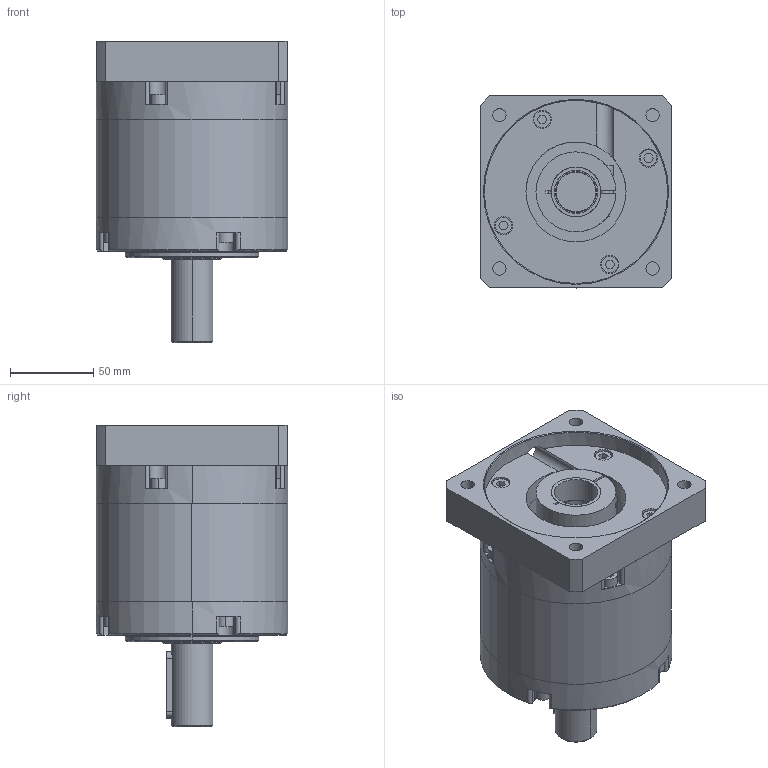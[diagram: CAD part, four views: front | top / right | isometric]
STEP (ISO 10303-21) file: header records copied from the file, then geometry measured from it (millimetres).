
FILE_DESCRIPTION((''),'2;1');
FILE_NAME('PV115FB-SINGLE-24-AD_ASM','2009-05-27T',('ata7311'),(''),'PRO/ENGINEER BY PARAMETRIC TECHNOLOGY CORPORATION, 2006300','PRO/ENGINEER BY PARAMETRIC TECHNOLOGY CORPORATION, 2006300','');
FILE_SCHEMA(('CONFIG_CONTROL_DESIGN'));
Products named in the file (13): PV115_HM_SINGLE; PV115_SHFT_FB; PV115-COVER-TN; PV115_REAR_COVER; MU115_HR_SHORT; M6X30; M6X20; PV115_SUN_CLMP; PV115_CLAMP; M6X25; HD202-0032; 5100-137; PV115FB-SINGLE-24-AD_ASM
Assembly tree (22 placements, depth 2):
  PV115FB-SINGLE-24-AD_ASM
    PV115_HM_SINGLE
    PV115_SHFT_FB
    PV115-COVER-TN
    PV115_REAR_COVER
    MU115_HR_SHORT
    M6X30  x8
    M6X20  x4
    PV115_SUN_CLMP
    PV115_CLAMP
    M6X25
    HD202-0032
    5100-137
Bounding box: 115 x 115 x 181 mm (x, y, z)
Volume: 860398.4 mm3; surface area: 204359.4 mm2
Topology: 22 solids, 22 shells, 451 faces, 1039 edges, 686 vertices
Faces by surface type: plane 225, cylinder 202, cone 20, torus 4
Entity records: 9789 total; most frequent: CARTESIAN_POINT 1859, DIRECTION 1761, ORIENTED_EDGE 1478, EDGE_CURVE 739, AXIS2_PLACEMENT_3D 709, VERTEX_POINT 486, EDGE_LOOP 383, CIRCLE 363
